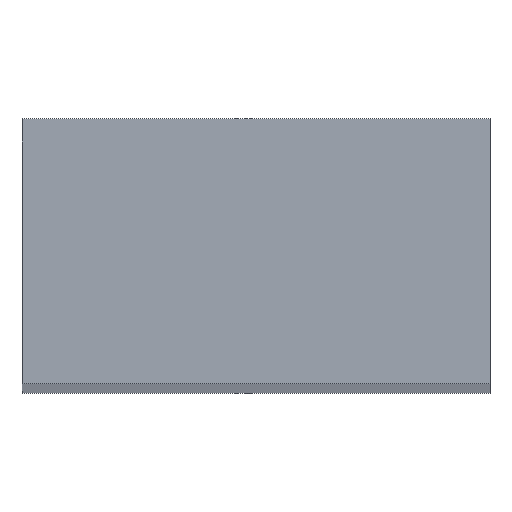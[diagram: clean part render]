
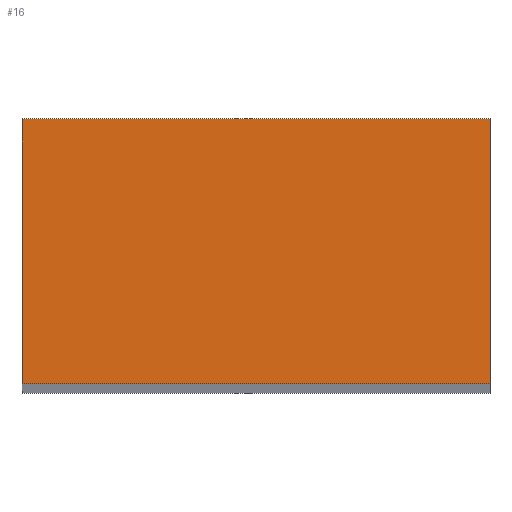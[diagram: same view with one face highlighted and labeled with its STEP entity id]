
A CAD part, top view. The second image highlights one B-rep face of the part: STEP entity #16.
In plain terms, the highlighted planar face has unit normal (0, 0, 1).
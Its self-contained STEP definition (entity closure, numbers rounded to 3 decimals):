
#9 = VECTOR ( 'NONE', #149, 1000. ) ;
#10 = DIRECTION ( 'NONE',  ( 1., 0., 0. ) ) ;
#16 = ADVANCED_FACE ( 'NONE', ( #212 ), #194, .T. ) ;
#17 = ORIENTED_EDGE ( 'NONE', *, *, #161, .T. ) ;
#22 = LINE ( 'NONE', #135, #172 ) ;
#43 = CARTESIAN_POINT ( 'NONE',  ( 2.65, 1.5, 60. ) ) ;
#50 = ORIENTED_EDGE ( 'NONE', *, *, #82, .T. ) ;
#52 = VECTOR ( 'NONE', #169, 1000. ) ;
#59 = LINE ( 'NONE', #174, #213 ) ;
#62 = CARTESIAN_POINT ( 'NONE',  ( 2.65, -1.5, 60. ) ) ;
#63 = ORIENTED_EDGE ( 'NONE', *, *, #142, .T. ) ;
#70 = LINE ( 'NONE', #43, #52 ) ;
#73 = EDGE_CURVE ( 'NONE', #105, #132, #145, .T. ) ;
#75 = CARTESIAN_POINT ( 'NONE',  ( 2.65, 1.5, 60. ) ) ;
#81 = CARTESIAN_POINT ( 'NONE',  ( -2.65, -1.5, 60. ) ) ;
#82 = EDGE_CURVE ( 'NONE', #182, #165, #59, .T. ) ;
#83 = DIRECTION ( 'NONE',  ( 0., 0., 1. ) ) ;
#101 = AXIS2_PLACEMENT_3D ( 'NONE', #62, #83, #10 ) ;
#105 = VERTEX_POINT ( 'NONE', #162 ) ;
#111 = DIRECTION ( 'NONE',  ( 0., 1., 0. ) ) ;
#129 = EDGE_LOOP ( 'NONE', ( #50, #63, #143, #17 ) ) ;
#132 = VERTEX_POINT ( 'NONE', #81 ) ;
#135 = CARTESIAN_POINT ( 'NONE',  ( -2.65, -1.5, 60. ) ) ;
#142 = EDGE_CURVE ( 'NONE', #165, #105, #70, .T. ) ;
#143 = ORIENTED_EDGE ( 'NONE', *, *, #73, .T. ) ;
#145 = LINE ( 'NONE', #188, #9 ) ;
#149 = DIRECTION ( 'NONE',  ( 0., -1., 0. ) ) ;
#161 = EDGE_CURVE ( 'NONE', #132, #182, #22, .T. ) ;
#162 = CARTESIAN_POINT ( 'NONE',  ( -2.65, 1.5, 60. ) ) ;
#165 = VERTEX_POINT ( 'NONE', #75 ) ;
#169 = DIRECTION ( 'NONE',  ( -1., 0., 0. ) ) ;
#172 = VECTOR ( 'NONE', #205, 1000. ) ;
#174 = CARTESIAN_POINT ( 'NONE',  ( 2.65, 1.5, 60. ) ) ;
#182 = VERTEX_POINT ( 'NONE', #207 ) ;
#188 = CARTESIAN_POINT ( 'NONE',  ( -2.65, 1.5, 60. ) ) ;
#194 = PLANE ( 'NONE',  #101 ) ;
#205 = DIRECTION ( 'NONE',  ( 1., 0., 0. ) ) ;
#207 = CARTESIAN_POINT ( 'NONE',  ( 2.65, -1.5, 60. ) ) ;
#212 = FACE_OUTER_BOUND ( 'NONE', #129, .T. ) ;
#213 = VECTOR ( 'NONE', #111, 1000. ) ;
